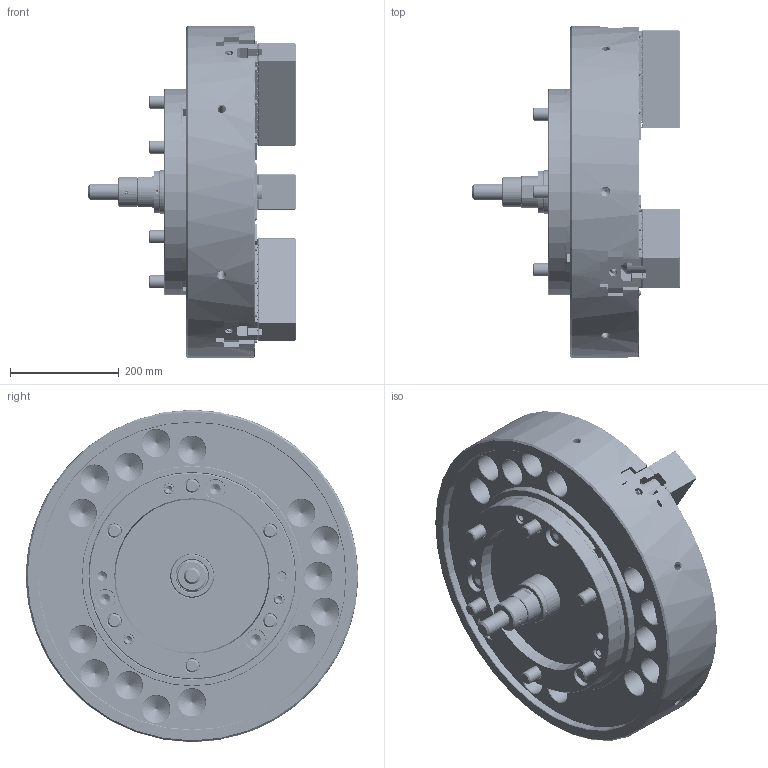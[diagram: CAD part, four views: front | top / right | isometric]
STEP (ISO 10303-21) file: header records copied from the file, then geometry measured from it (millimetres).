
FILE_DESCRIPTION (( 'STEP AP214' ), '1' );
FILE_NAME ('DT1_NV24C15_OUTSIDE_VIEW_HOL.STEP', '2026-03-24T05:03:53', ( '' ), ( '' ), 'SwSTEP 2.0', 'SolidWorks 2022', '' );
FILE_SCHEMA (( 'AUTOMOTIVE_DESIGN' ));
Length unit declared in the file: millimetre
Products named in the file (18): DT1_NV24C15_CAP^DT1_NV24C1500; DT1_NV24C15_ORING^DT1_NV24C1500; DT1_NV24C15_BP^DT1_NV24C1500; DT1_NV24C15_COVER^DT1_NV24C1500; DT1_NV24C15_M20x60^DT1_NV24C1500; DT1_NV24C15_TNUT^DT1_NV24C1500; DT1_NV24C15_M6x12^DT1_NV24C1500; DT1_NV24C15_DN^DT1_NV24C1500; DT1_NV24C15_DRAWSCREW^DT1_NV24C1500; DT1_NV24C15_M12x55^DT1_NV24C1500; DT1_NV24C15_M24x160^DT1_NV24C1500; DT1_NV24C15_SOFTJAW^DT1_NV24C1500; DT1_NV24C15_S39^DT1_NV24C1500_円筒用; Copy of 61P321208^DT1_NV24C1500; DT1_NV24C15_OUTSIDE_VIEW_HOL; DT1_NV24C15_BASE^DT1_NV24C1500; DT1_NV24C15_P80^DT1_NV24C1500_円筒用; DT1_NV24C15_COVERFOOTER^DT1_NV24C1500
Assembly tree (48 placements, depth 2):
  DT1_NV24C15_OUTSIDE_VIEW_HOL
    DT1_NV24C15_SOFTJAW^DT1_NV24C1500  x3
    DT1_NV24C15_TNUT^DT1_NV24C1500  x6
    DT1_NV24C15_COVER^DT1_NV24C1500
    DT1_NV24C15_DRAWSCREW^DT1_NV24C1500
    Copy of 61P321208^DT1_NV24C1500
    DT1_NV24C15_COVERFOOTER^DT1_NV24C1500
    DT1_NV24C15_M6x12^DT1_NV24C1500  x6
    DT1_NV24C15_M12x55^DT1_NV24C1500  x3
    DT1_NV24C15_M20x60^DT1_NV24C1500  x6
    DT1_NV24C15_M24x160^DT1_NV24C1500  x6
    DT1_NV24C15_S39^DT1_NV24C1500_円筒用
    DT1_NV24C15_P80^DT1_NV24C1500_円筒用
    DT1_NV24C15_CAP^DT1_NV24C1500  x6
    DT1_NV24C15_ORING^DT1_NV24C1500  x3
    DT1_NV24C15_DN^DT1_NV24C1500
    DT1_NV24C15_BP^DT1_NV24C1500
    DT1_NV24C15_BASE^DT1_NV24C1500
Bounding box: 380.44 x 610 x 610 mm (x, y, z)
Volume: 37960717.9 mm3; surface area: 2405577.2 mm2
Topology: 48 solids, 108 shells, 9677 faces, 26813 edges, 17459 vertices
Faces by surface type: plane 5644, cylinder 1924, bspline 1005, cone 962, torus 136, sphere 6
Entity records: 274692 total; most frequent: CARTESIAN_POINT 87465, ORIENTED_EDGE 41810, DIRECTION 33692, EDGE_CURVE 20905, LINE 14564, VECTOR 14564, VERTEX_POINT 13713, AXIS2_PLACEMENT_3D 9564
